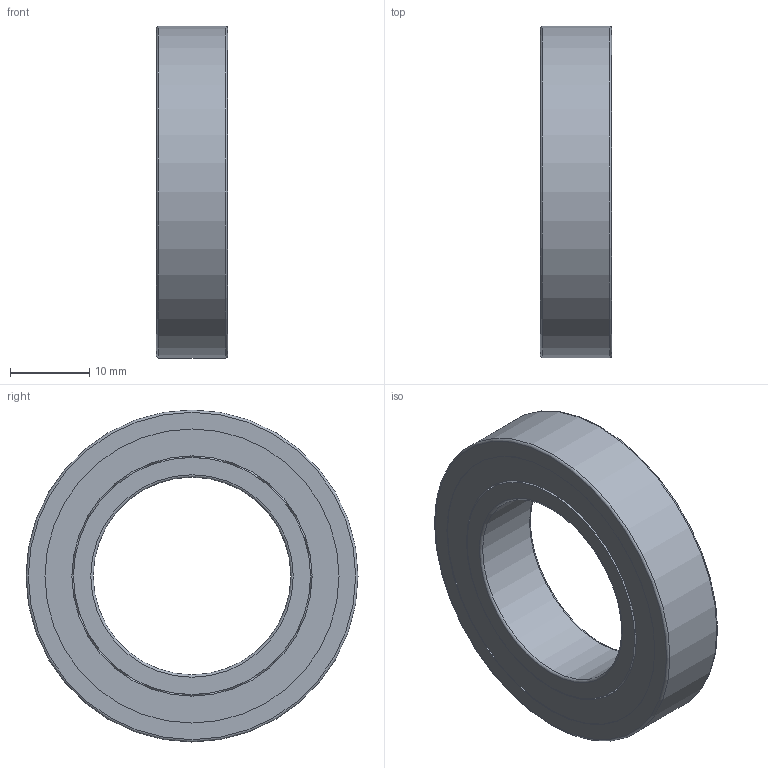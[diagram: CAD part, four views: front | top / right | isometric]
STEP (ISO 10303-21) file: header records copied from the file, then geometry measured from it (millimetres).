
FILE_DESCRIPTION(/* description */ (''),/* implementation_level */ '2;1');
FILE_NAME(/* name */ 'KH_61905_TA.step',/* time_stamp */ '2013-03-07T07:04:37+01:00',/* author */ ('Marian'),/* organization */ ('GMN'),/* preprocessor_version */ 'ST-DEVELOPER v11',/* originating_system */ 'SIEMENS UGS NX 6.0',/* authorisation */ '');
FILE_SCHEMA (('CONFIG_CONTROL_DESIGN'));
Length unit declared in the file: millimetre
Products named in the file (1): KH_61905_TA
Bounding box: 9 x 42 x 42 mm (x, y, z)
Volume: 6391.7 mm3; surface area: 8979.4 mm2
Topology: 24 solids, 24 shells, 70 faces, 170 edges, 110 vertices
Faces by surface type: cylinder 32, sphere 19, plane 12, torus 6, cone 1
Full cylindrical faces by diameter (mm): 4.169 x19, 25 x1, 30 x1, 30.4 x1, 30.6 x1, 31 x1, 32.949 x1, 35.298 x1, 35.698 x1, 37.2 x2, 38.5 x2, 42 x1
Entity records: 3668 total; most frequent: CARTESIAN_POINT 2396, DIRECTION 206, FACE_BOUND 159, EDGE_LOOP 140, ORIENTED_EDGE 140, AXIS2_PLACEMENT_3D 103, VERTEX_POINT 89, ADVANCED_FACE 70
